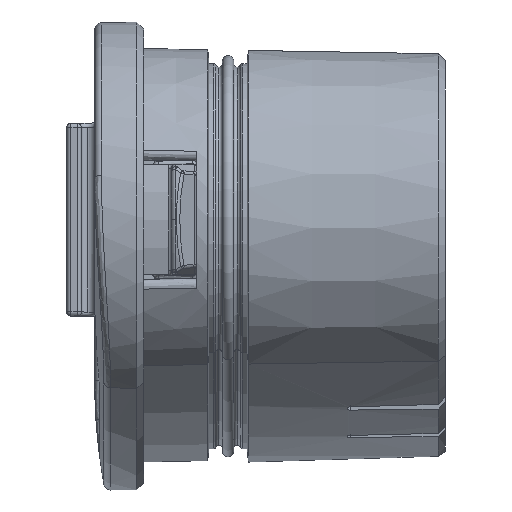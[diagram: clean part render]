
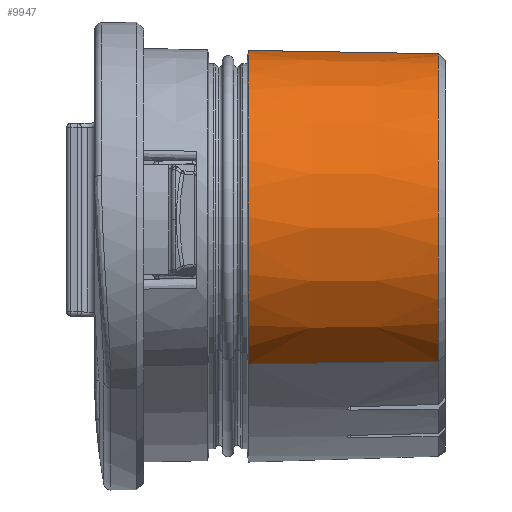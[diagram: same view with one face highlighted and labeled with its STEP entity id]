
A CAD part, left-side view. The second image highlights one B-rep face of the part: STEP entity #9947.
In plain terms, the highlighted conical face has half-angle 1 degrees and reference radius 12.25 mm.
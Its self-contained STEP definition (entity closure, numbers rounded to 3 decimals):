
#236 = CARTESIAN_POINT ( 'NONE',  ( -24.757, -21.091, -10.131 ) ) ;
#944 = CONICAL_SURFACE ( 'NONE', #27192, 12.25, 0.017 ) ;
#1208 = CARTESIAN_POINT ( 'NONE',  ( -18.549, 0., 0. ) ) ;
#1422 = VERTEX_POINT ( 'NONE', #10333 ) ;
#3903 = LINE ( 'NONE', #18488, #29706 ) ;
#4095 = DIRECTION ( 'NONE',  ( 0., 0., 1. ) ) ;
#5489 = CARTESIAN_POINT ( 'NONE',  ( -18.549, -7.5, 0. ) ) ;
#6038 = AXIS2_PLACEMENT_3D ( 'NONE', #5489, #29785, #23950 ) ;
#6649 = CARTESIAN_POINT ( 'NONE',  ( -24.949, 0., -10.445 ) ) ;
#8009 = CARTESIAN_POINT ( 'NONE',  ( -24.881, -7.5, -10.333 ) ) ;
#9947 = ADVANCED_FACE ( 'NONE', ( #30511 ), #944, .T. ) ;
#10333 = CARTESIAN_POINT ( 'NONE',  ( -18.549, -21.091, 11.882 ) ) ;
#11699 = DIRECTION ( 'NONE',  ( 0., 1., 0. ) ) ;
#16177 = LINE ( 'NONE', #6649, #27443 ) ;
#17562 = DIRECTION ( 'NONE',  ( 0., 1., 0. ) ) ;
#17667 = EDGE_CURVE ( 'NONE', #25967, #32243, #16177, .T. ) ;
#17842 = CIRCLE ( 'NONE', #6038, 12.119 ) ;
#18474 = ORIENTED_EDGE ( 'NONE', *, *, #26341, .T. ) ;
#18488 = CARTESIAN_POINT ( 'NONE',  ( -18.549, 0., 12.25 ) ) ;
#18980 = ORIENTED_EDGE ( 'NONE', *, *, #23954, .F. ) ;
#20498 = EDGE_CURVE ( 'NONE', #25967, #1422, #32653, .T. ) ;
#20788 = AXIS2_PLACEMENT_3D ( 'NONE', #33398, #17562, #4095 ) ;
#23950 = DIRECTION ( 'NONE',  ( -0.522, 0., -0.853 ) ) ;
#23954 = EDGE_CURVE ( 'NONE', #32243, #33575, #17842, .T. ) ;
#24439 = ORIENTED_EDGE ( 'NONE', *, *, #20498, .T. ) ;
#25660 = CARTESIAN_POINT ( 'NONE',  ( -18.549, -7.5, 12.119 ) ) ;
#25967 = VERTEX_POINT ( 'NONE', #236 ) ;
#26255 = EDGE_LOOP ( 'NONE', ( #28859, #24439, #18474, #18980 ) ) ;
#26341 = EDGE_CURVE ( 'NONE', #1422, #33575, #3903, .T. ) ;
#27192 = AXIS2_PLACEMENT_3D ( 'NONE', #1208, #11699, #30307 ) ;
#27443 = VECTOR ( 'NONE', #32827, 1000. ) ;
#28859 = ORIENTED_EDGE ( 'NONE', *, *, #17667, .F. ) ;
#29212 = DIRECTION ( 'NONE',  ( 0., 1., 0.017 ) ) ;
#29706 = VECTOR ( 'NONE', #29212, 1000. ) ;
#29785 = DIRECTION ( 'NONE',  ( 0., 1., 0. ) ) ;
#30307 = DIRECTION ( 'NONE',  ( 0., 0., 1. ) ) ;
#30511 = FACE_OUTER_BOUND ( 'NONE', #26255, .T. ) ;
#32243 = VERTEX_POINT ( 'NONE', #8009 ) ;
#32653 = CIRCLE ( 'NONE', #20788, 11.882 ) ;
#32827 = DIRECTION ( 'NONE',  ( -0.009, 1., -0.015 ) ) ;
#33398 = CARTESIAN_POINT ( 'NONE',  ( -18.549, -21.091, 0. ) ) ;
#33575 = VERTEX_POINT ( 'NONE', #25660 ) ;
